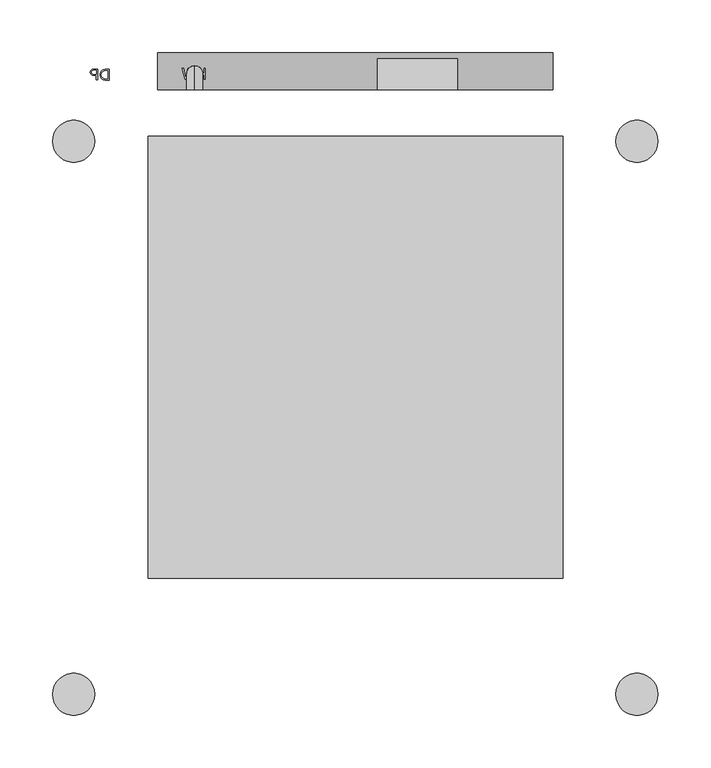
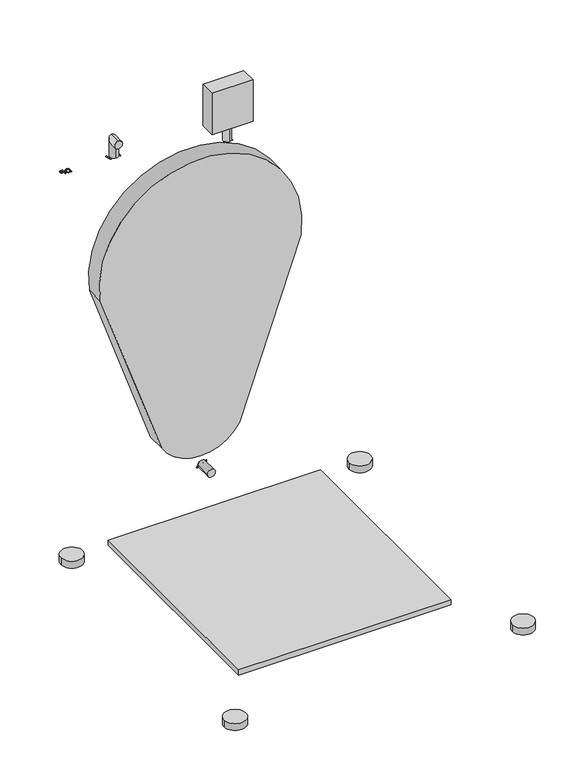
"""IFC4 building model written with IfcOpenShell, lengths in millimetres: proxy geometry, 11693340_GB_PWM307DP_LWCC : 51307172_GB_11693340_PWM307DP_LWCC."""

from ifc_helpers import new_model, si_unit, point, frame, frame_2d, origin, origin_with_axes, place, context, project, spatial, polyline, circle_curve, ellipse_curve, trimmed, segment, composite_curve, outline, extrude, source, transform, mapped, element, save
from ifc_brep_helpers import plane_surface, cylinder_surface, advanced_brep


def specialty_equipment_12886d61(model_context):
    return source(origin(), model_context, "Body", "SolidModel", [
        advanced_brep(
        [(-152.5, -35.0, 739.0), (-152.5, -35.0, 754.0), (-152.5, -27.5, 739.0), (-152.5, -12.5, 754.0), (-152.5, -27.5, 716.5), (-152.5, -12.5, 716.5)],
        [
            (0, 1, circle_curve(frame((-152.5, -35.0, 746.5), z_axis=(0.0, -1.0, 0.0), x_axis=(0.0, 0.0, 1.0)), 7.5)),
            (1, 0, circle_curve(frame((-152.5, -35.0, 746.5), z_axis=(0.0, -1.0, 0.0), x_axis=(0.0, 0.0, 1.0)), 7.5)),
            (0, 2),
            (2, 3, ellipse_curve(frame((-152.5, -20.0, 746.5), z_axis=(0.0, -0.7071067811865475, 0.7071067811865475), x_axis=(0.0, -0.7071067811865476, -0.7071067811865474)), 10.6066017, 7.5)),
            (3, 1),
            (3, 2, ellipse_curve(frame((-152.5, -20.0, 746.5), z_axis=(0.0, -0.7071067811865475, 0.7071067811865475), x_axis=(0.0, -0.7071067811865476, -0.7071067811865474)), 10.6066017, 7.5)),
            (4, 5, circle_curve(frame((-152.5, -20.0, 716.5), z_axis=(0.0, 0.0, -1.0), x_axis=(0.0, 1.0, 0.0)), 7.5)),
            (5, 4, circle_curve(frame((-152.5, -20.0, 716.5), z_axis=(0.0, 0.0, -1.0), x_axis=(0.0, 1.0, 0.0)), 7.5)),
            (2, 4),
            (5, 3),
        ],
        [
            plane_surface(frame((-298.0, -35.0, 746.5), z_axis=(0.0, -1.0, 0.0), x_axis=(1.0, 0.0, 0.0))),
            cylinder_surface(frame((-152.5, -35.0, 746.5), z_axis=(0.0, -1.0, 0.0), x_axis=(0.0, 0.0, 1.0)), 7.5),
            plane_surface(frame((-298.0, -20.0, 716.5), z_axis=(0.0, 0.0, -1.0), x_axis=(1.0, 0.0, 0.0))),
            cylinder_surface(frame((-152.5, -20.0, 746.5), z_axis=(0.0, 0.0, 1.0), x_axis=(0.0, 1.0, 0.0)), 7.5),
        ],
        [
            (0, [[1, 2]]),
            (1, [[-1, 3, 4, 5]]),
            (1, [[-2, -5, 6, -3]]),
            (2, [[7, 8]]),
            (3, [[-4, 9, -8, 10]]),
            (3, [[-6, -10, -7, -9]]),
        ],
    ),
        extrude(outline(polyline([(-142.5237638, -25.0), (-143.7834134, -25.0), (-143.7834134, -21.5422104), (-145.4717236, -19.9295918), (-149.3062539, -24.9960047), (-150.8371057, -24.9960047), (-146.3635304, -19.0812626), (-150.682024, -14.9545468), (-148.9188384, -14.9545468), (-143.7734276, -19.8714576), (-143.7734276, -14.9547748), (-142.5237638, -14.9547748), (-142.5237638, -25.0)])), frame((0.0, 0.0, 715.5), z_axis=(0.0, 0.0, 1.0), x_axis=(1.0, 0.0, 0.0)), (0.0, 0.0, 1.0), 1.0),
        extrude(outline(polyline([(-153.5799346, -25.0), (-155.1013346, -25.0), (-157.6681659, -16.1680585), (-160.4132353, -25.0), (-161.7588291, -25.0), (-164.4977428, -14.9547748), (-163.1999912, -14.9547748), (-161.1258941, -23.5916213), (-158.6010837, -14.9547748), (-156.7331206, -14.9547748), (-154.2135942, -23.5959701), (-152.1412312, -14.9547748), (-150.8442078, -14.9547748), (-153.5799346, -25.0)])), frame((0.0, 0.0, 715.5), z_axis=(0.0, 0.0, 1.0), x_axis=(1.0, 0.0, 0.0)), (0.0, 0.0, 1.0), 1.0),
        extrude(outline(composite_curve([segment(polyline([(37.0012365, 26.8350179), (37.0012365, 28.0926569), (47.0457018, 28.0926569), (47.0457018, 24.2588697)]), True, "CONTINUOUS"), segment(trimmed(circle_curve(frame_2d((44.0634182, 24.2588697)), 2.9822837), [point((47.0457018, 24.2588697))], [point((41.0811345, 24.2588697))], False, "CARTESIAN"), True, "CONTINUOUS"), segment(polyline([(41.0811345, 24.2588697), (41.0811345, 26.8350179), (37.0012365, 26.8350179)]), True, "CONTINUOUS")], self_intersect=False), holes=[composite_curve([segment(trimmed(circle_curve(frame_2d((44.0644309, 24.2588697)), 1.7264899), [point((42.3379411, 24.2588697))], [point((45.7909208, 24.2588697))], True, "CARTESIAN"), True, "CONTINUOUS"), segment(polyline([(45.7909208, 24.2588697), (45.7909208, 26.8350179), (42.3379411, 26.8350179), (42.3379411, 24.2588697)]), True, "CONTINUOUS")], self_intersect=False)]), frame((0.0, -5.0, 0.0), z_axis=(0.0, 1.0, 0.0), x_axis=(0.0, 0.0, 1.0)), (0.0, 0.0, 1.0), 1.0),
        extrude(outline(polyline([(37.0006445, 18.6718375), (37.0006445, 20.0), (47.0451716, 15.9923232), (47.0451716, 14.9218811), (37.0004865, 10.9106116), (37.0004865, 12.2393282), (40.1391224, 13.3892124), (40.1391224, 17.526368), (37.0006445, 18.6718375)]), holes=[polyline([(41.3966781, 13.8483756), (45.7905035, 15.4566766), (41.3966781, 17.0651073), (41.3966781, 13.8483756)])]), frame((0.0, -5.0, 0.0), z_axis=(0.0, 1.0, 0.0), x_axis=(0.0, 0.0, 1.0)), (0.0, 0.0, 1.0), 1.0),
        extrude(outline(composite_curve([segment(trimmed(circle_curve(frame_2d((42.0, 20.0)), 7.5), [point((42.0, 27.5))], [point((42.0, 12.5))], False, "CARTESIAN"), True, "CONTINUOUS"), segment(trimmed(circle_curve(frame_2d((42.0, 20.0)), 7.5), [point((42.0, 12.5))], [point((42.0, 27.5))], False, "CARTESIAN"), True, "CONTINUOUS")], self_intersect=False)), frame((0.0, -35.0, 0.0), z_axis=(0.0, 1.0, 0.0), x_axis=(0.0, 0.0, 1.0)), (0.0, 0.0, 1.0), 30.0),
        extrude(outline(polyline([(54.7566495, -26.4555134), (48.4761766, -26.4555134), (48.4761766, -25.1997667), (53.4981583, -25.1997667), (53.4981583, -16.4081759), (54.7566495, -16.4081759), (54.7566495, -26.4555134)])), frame((0.0, 0.0, 675.0), z_axis=(0.0, 0.0, 1.0), x_axis=(1.0, 0.0, 0.0)), (0.0, 0.0, 1.0), 1.0),
        extrude(outline(polyline([(64.0215267, -16.4081759), (64.0215267, -26.4554669), (56.6392877, -26.4554669), (56.6392877, -25.1995171), (62.7595964, -25.1995171), (62.7595964, -21.9031269), (57.1079823, -21.9031269), (57.1079823, -20.6478177), (62.7596269, -20.6478177), (62.7596269, -17.6653752), (56.7945524, -17.6653752), (56.7945524, -16.4081759), (64.0215267, -16.4081759)])), frame((0.0, 0.0, 675.0), z_axis=(0.0, 0.0, 1.0), x_axis=(1.0, 0.0, 0.0)), (0.0, 0.0, 1.0), 1.0),
        extrude(outline(composite_curve([segment(trimmed(circle_curve(frame_2d((57.0, -21.5)), 7.5), [point((57.0, -14.0))], [point((57.0, -29.0))], False, "CARTESIAN"), True, "CONTINUOUS"), segment(trimmed(circle_curve(frame_2d((57.0, -21.5)), 7.5), [point((57.0, -29.0))], [point((57.0, -14.0))], False, "CARTESIAN"), True, "CONTINUOUS")], self_intersect=False)), frame((0.0, 0.0, 676.0), z_axis=(0.0, 0.0, 1.0), x_axis=(1.0, 0.0, 0.0)), (0.0, 0.0, 1.0), 30.0),
        extrude(outline(polyline([(21.0, -6.0), (97.0, -6.0), (97.0, -35.0), (21.0, -35.0), (21.0, -6.0)])), frame((0.0, 0.0, 706.0), z_axis=(0.0, 0.0, 1.0), x_axis=(1.0, 0.0, 0.0)), (0.0, 0.0, 1.0), 81.0),
        extrude(outline(composite_curve([segment(polyline([(-233.9721924, -25.9934177), (-237.4675721, -25.9934177)]), True, "CONTINUOUS"), segment(trimmed(circle_curve(frame_2d((-237.4675721, -20.9704397)), 5.022978), [point((-237.4675721, -25.9934177))], [point((-237.4675721, -15.9474617))], False, "CARTESIAN"), True, "CONTINUOUS"), segment(polyline([(-237.4675721, -15.9474617), (-233.9721924, -15.9474617), (-233.9721924, -25.9934177)]), True, "CONTINUOUS")], self_intersect=False), holes=[composite_curve([segment(trimmed(circle_curve(frame_2d((-237.4675721, -20.9701844)), 3.7676667), [point((-237.4675721, -17.2025176))], [point((-237.4675721, -24.7378511))], True, "CARTESIAN"), True, "CONTINUOUS"), segment(polyline([(-237.4675721, -24.7378511), (-235.22841, -24.7378511), (-235.22841, -17.2025176), (-237.4675721, -17.2025176)]), True, "CONTINUOUS")], self_intersect=False)]), frame((0.0, 0.0, 717.0), z_axis=(0.0, 0.0, 1.0), x_axis=(1.0, 0.0, 0.0)), (0.0, 0.0, 1.0), 1.0),
        extrude(outline(composite_curve([segment(polyline([(-244.8031571, -15.6233055), (-244.8031571, -25.6693963), (-246.0589314, -25.6693963), (-246.0589314, -21.5880656), (-248.6760845, -21.5880656)]), True, "CONTINUOUS"), segment(trimmed(circle_curve(frame_2d((-248.6760845, -18.6056855)), 2.9823801), [point((-248.6760845, -21.5880656))], [point((-248.6760845, -15.6233055))], False, "CARTESIAN"), True, "CONTINUOUS"), segment(polyline([(-248.6760845, -15.6233055), (-244.8031571, -15.6233055)]), True, "CONTINUOUS")], self_intersect=False), holes=[composite_curve([segment(trimmed(circle_curve(frame_2d((-248.7253163, -18.6052432)), 1.7272254), [point((-248.7253163, -16.8780177))], [point((-248.7253163, -20.3324686))], True, "CARTESIAN"), True, "CONTINUOUS"), segment(polyline([(-248.7253163, -20.3324686), (-246.0587296, -20.3324686), (-246.0587296, -16.8780177), (-248.7253163, -16.8780177)]), True, "CONTINUOUS")], self_intersect=False)]), frame((0.0, 0.0, 717.0), z_axis=(0.0, 0.0, 1.0), x_axis=(1.0, 0.0, 0.0)), (0.0, 0.0, 1.0), 1.0),
        extrude(outline(polyline([(197.0, -79.0), (197.0, -499.0), (-197.0, -499.0), (-197.0, -79.0), (197.0, -79.0)])), frame((0.0, 0.0, 3.5), z_axis=(0.0, 0.0, 1.0), x_axis=(1.0, 0.0, 0.0)), (0.0, 0.0, 1.0), 10.0),
        extrude(outline(composite_curve([segment(trimmed(circle_curve(frame_2d((-267.5, -84.0)), 20.0), [point((-247.5, -84.0))], [point((-287.5, -84.0))], False, "CARTESIAN"), True, "CONTINUOUS"), segment(trimmed(circle_curve(frame_2d((-267.5, -84.0)), 20.0), [point((-287.5, -84.0))], [point((-247.5, -84.0))], False, "CARTESIAN"), True, "CONTINUOUS")], self_intersect=False)), origin_with_axes(), (0.0, 0.0, 1.0), 13.5),
        extrude(outline(composite_curve([segment(trimmed(circle_curve(frame_2d((267.5, -84.0)), 20.0), [point((287.5, -84.0))], [point((247.5, -84.0))], False, "CARTESIAN"), True, "CONTINUOUS"), segment(trimmed(circle_curve(frame_2d((267.5, -84.0)), 20.0), [point((247.5, -84.0))], [point((287.5, -84.0))], False, "CARTESIAN"), True, "CONTINUOUS")], self_intersect=False)), origin_with_axes(), (0.0, 0.0, 1.0), 13.5),
        extrude(outline(composite_curve([segment(trimmed(circle_curve(frame_2d((267.5, -609.0)), 20.0), [point((287.5, -609.0))], [point((247.5, -609.0))], False, "CARTESIAN"), True, "CONTINUOUS"), segment(trimmed(circle_curve(frame_2d((267.5, -609.0)), 20.0), [point((247.5, -609.0))], [point((287.5, -609.0))], False, "CARTESIAN"), True, "CONTINUOUS")], self_intersect=False)), origin_with_axes(), (0.0, 0.0, 1.0), 13.5),
        extrude(outline(composite_curve([segment(trimmed(circle_curve(frame_2d((-267.5, -609.0)), 20.0), [point((-247.5, -609.0))], [point((-287.5, -609.0))], False, "CARTESIAN"), True, "CONTINUOUS"), segment(trimmed(circle_curve(frame_2d((-267.5, -609.0)), 20.0), [point((-287.5, -609.0))], [point((-247.5, -609.0))], False, "CARTESIAN"), True, "CONTINUOUS")], self_intersect=False)), origin_with_axes(), (0.0, 0.0, 1.0), 13.5),
        extrude(outline(composite_curve([segment(trimmed(circle_curve(frame_2d((478.0, 0.0)), 188.0), [point((452.0, 186.1934478))], [point((452.0, -186.1934478))], False, "CARTESIAN"), True, "CONTINUOUS"), segment(polyline([(452.0, -186.1934478), (124.0, -72.7255113)]), True, "CONTINUOUS"), segment(trimmed(circle_curve(frame_2d((168.0, 0.0)), 85.0), [point((124.0, -72.7255113))], [point((124.0, 72.7255113))], False, "CARTESIAN"), True, "CONTINUOUS"), segment(polyline([(124.0, 72.7255113), (452.0, 186.1934478)]), True, "CONTINUOUS")], self_intersect=False)), frame((0.0, -35.0, 0.0), z_axis=(0.0, 1.0, 0.0), x_axis=(0.0, 0.0, 1.0)), (0.0, 0.0, 1.0), 35.0),
    ])


if __name__ == "__main__":
    model = new_model("IFC4")
    model_context = context("Model", 3, world=origin())
    ifc_project = project(units=[si_unit("LENGTHUNIT", "METRE", prefix="MILLI")], contexts=[model_context])
    site = spatial("IfcSite", under=ifc_project)
    building = spatial("IfcBuilding", under=site)
    placement = place(None, origin())
    specialty_equipment_shape = specialty_equipment_12886d61(model_context)
    element("IfcBuildingElementProxy", 1, Name="11693340_GB_PWM307DP_LWCC : 51307172_GB_11693340_PWM307DP_LWCC", ObjectType="11693340_GB_PWM307DP_LWCC : 51307172_GB_11693340_PWM307DP_LWCC", at=placement, inside=building, context=model_context, shape_type="MappedRepresentation", body=[
        mapped(specialty_equipment_shape, transform((0.0, 0.0, 0.0), x_axis=(1.0, 0.0, 0.0), y_axis=(0.0, 1.0, 0.0), z_axis=(0.0, 0.0, 1.0))),
    ])
    save(model, "model.ifc")
